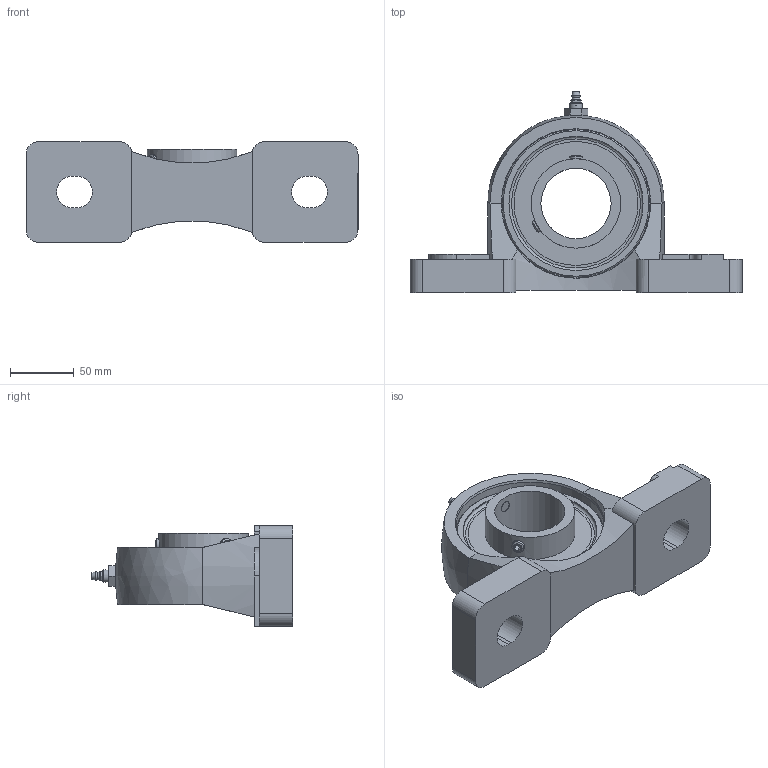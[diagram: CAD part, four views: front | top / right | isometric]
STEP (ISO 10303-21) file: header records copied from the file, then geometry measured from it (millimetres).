
FILE_DESCRIPTION((''),'2;1');
FILE_NAME('\\Ts-tgl068\J-Cad-D-BASE\00.3DCADデータ作成フォルダ\01.ピロー形\UCEP200\UCEP211.stp','2014-04-18T09:42:19',('btec_1106_2'),(''),'Autodesk Inventor 2012','Autodesk Inventor 2012','');
FILE_SCHEMA(('AUTOMOTIVE_DESIGN { 1 0 10303 214 1 1 1 1 }'));
Length unit declared in the file: millimetre
Products named in the file (7): UCEP200; EP211; AU110-2; EC211; GU1; シリーズUC [番手=211 ul]; M10X1
Assembly tree (6 placements, depth 2):
  UCEP200
    EP211
    AU110-2
    EC211
    GU1
    シリーズUC [番手=211 ul]
    M10X1
Bounding box: 260 x 157.69 x 79 mm (x, y, z)
Volume: 834461.6 mm3; surface area: 148855.4 mm2
Topology: 6 solids, 6 shells, 173 faces, 429 edges, 276 vertices
Faces by surface type: plane 91, cylinder 48, cone 21, torus 8, sphere 4, bspline 1
Full cylindrical faces by diameter (mm): 2 x1, 5 x1, 5.359 x1, 6.35 x1, 8.376 x2, 10 x3, 55 x1, 70 x2, 105 x2, 116 x2
Entity records: 5387 total; most frequent: CARTESIAN_POINT 1208, DIRECTION 848, ORIENTED_EDGE 756, EDGE_CURVE 378, AXIS2_PLACEMENT_3D 331, VERTEX_POINT 262, EDGE_LOOP 234, VECTOR 186
